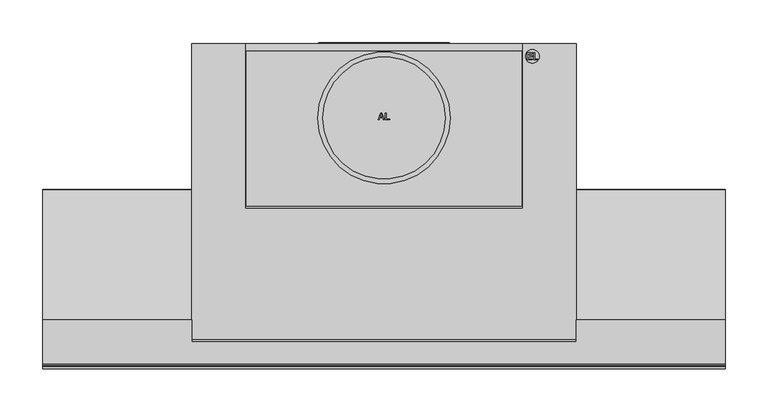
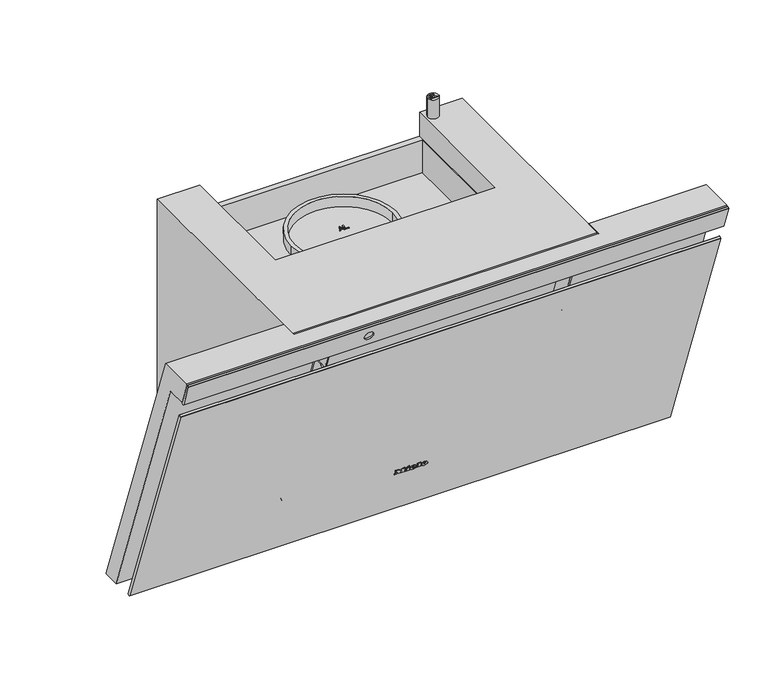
"""IFC4 building model written with IfcOpenShell, lengths in millimetres: proxy geometry, 12534040_D_DAH4870_GRGR : 28H4870G_D_12534040_DAH4870_GRGR."""

from ifc_helpers import new_model, si_unit, point, frame, frame_2d, origin, origin_with_axes, place, context, project, spatial, polyline, circle_curve, ellipse_curve, trimmed, segment, composite_curve, outline, extrude, faceted_brep, source, transform, mapped, element, save
from ifc_brep_helpers import plane_surface, cylinder_surface, revolved_surface, extruded_surface, advanced_brep


def specialty_equipment_f54dbeaa(model_context):
    return source(origin(), model_context, "Body", "SolidModel", [
        extrude(outline(polyline([(0.0, 0.0), (0.968, 0.0), (0.968, 5.352), (0.0, 5.352), (0.0, 6.696), (3.52, 6.696), (3.52, 5.352), (2.56, 5.352), (2.56, 1.9488753), (6.136, 6.696), (9.728, 1.8807777), (9.728, 5.352), (8.744, 5.352), (8.744, 6.696), (15.128, 6.696), (15.128, 5.352), (14.112, 5.352), (14.112, 0.0), (15.128, 0.0), (15.128, -1.304), (10.256, -1.304), (7.92, 1.696), (5.576, -1.304), (0.0, -1.304), (0.0, 0.0)])), frame((-24.271984, -261.1380975, 82.2921818), z_axis=(0.0, 0.9396926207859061, 0.34202014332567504), x_axis=(1.0, 0.0, 0.0)), (0.0, 0.0, 1.0), 1.0),
        extrude(outline(polyline([(0.0, 0.0), (0.96, 0.0), (0.96, 5.352), (0.0, 5.352), (0.0, 6.696), (6.488, 6.696), (6.488, 5.352), (5.504, 5.352), (5.504, -1.304), (0.0, -1.304), (0.0, 0.0)])), frame((8.192016, -261.1380975, 82.2921818), z_axis=(0.0, 0.9396926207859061, 0.34202014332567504), x_axis=(1.0, 0.0, 0.0)), (0.0, 0.0, 1.0), 1.0),
        extrude(outline(polyline([(0.0, 0.0), (1.4315306, 0.0), (1.4390414, -2.9920869), (0.0109086, -2.9993294), (0.0, 0.0)])), frame((-6.351984, -261.4226582, 83.074006), z_axis=(0.0, 0.9396926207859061, 0.342020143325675), x_axis=(0.42472021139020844, 0.30963927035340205, -0.8507269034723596)), (0.0, 0.0, 1.0), 1.0),
        extrude(outline(polyline([(0.4933907, 2.4141097), (1.7898156, 3.022309), (2.1941493, 2.1604399), (5.1636141, 3.5535222), (4.7592805, 4.4153913), (5.9760369, 4.9862153), (8.6568708, -0.728194), (7.4401145, -1.299018), (7.0459741, -0.4588767), (2.7800843, -2.4601583), (0.4933907, 2.4141097)])), frame((-6.351984, -261.4226582, 83.074006), z_axis=(0.0, 0.9396926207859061, 0.342020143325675), x_axis=(0.42472021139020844, 0.30963927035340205, -0.8507269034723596)), (0.0, 0.0, 1.0), 1.0),
        advanced_brep(
        [(2.392016, -259.4964008, 77.7816572), (2.392016, -259.7727531, 78.5409288), (7.744016, -259.7727531, 78.5409288), (-1.567984, -259.7727531, 78.5409288), (0.632016, -258.8479306, 76.0), (7.608016, -259.4964008, 77.7816572), (5.192016, -259.4964008, 77.7816572), (3.288016, -259.1899507, 76.9396926), (2.392016, -260.1229817, 79.5031741), (2.392016, -260.4212233, 80.3225861), (3.760016, -260.4212233, 80.3225861), (3.760016, -260.1229817, 79.5031741), (2.392016, -258.5567082, 78.1236774), (3.288016, -258.2502581, 77.2817128), (5.192016, -258.5567082, 78.1236774), (7.608016, -258.5567082, 78.1236774), (0.632016, -257.908238, 76.3420201), (-1.567984, -258.8330604, 78.882949), (7.744016, -258.8330604, 78.882949), (2.392016, -258.8330604, 78.882949), (2.392016, -259.1832891, 79.8451942), (3.760016, -259.1832891, 79.8451942), (3.760016, -259.4815306, 80.6646062), (2.392016, -259.4815306, 80.6646062)],
        [
            (0, 1),
            (1, 2),
            (2, 3, ellipse_curve(frame((3.088016, -259.7727531, 78.5409288), z_axis=(0.0, -0.9396926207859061, -0.34202014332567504), x_axis=(-1.0, 0.0, 0.0)), 4.656, 3.848)),
            (3, 4, circle_curve(frame((1.5280596, -259.8657825, 78.7965252), z_axis=(0.0, -0.9396926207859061, -0.34202014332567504), x_axis=(0.0, 0.34202014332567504, -0.9396926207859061)), 3.1079688)),
            (4, 5, circle_curve(frame((2.9948096, -260.5881291, 80.7811561), z_axis=(0.0, -0.9396926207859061, -0.34202014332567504), x_axis=(0.0, 0.34202014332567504, -0.9396926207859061)), 5.6098607)),
            (5, 6),
            (6, 7, circle_curve(frame((3.6790748, -259.7508638, 78.4807885), z_axis=(0.0, 0.9396926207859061, 0.34202014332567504), x_axis=(0.0, 0.34202014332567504, -0.9396926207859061)), 1.6859795)),
            (7, 0, circle_curve(frame((3.288016, -259.4964008, 77.7816572), z_axis=(0.0, 0.9396926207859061, 0.34202014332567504), x_axis=(0.0, 0.34202014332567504, -0.9396926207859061)), 0.896)),
            (8, 9),
            (9, 10, circle_curve(frame((3.076016, -260.4212233, 80.3225861), z_axis=(0.0, 0.9396926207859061, 0.34202014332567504), x_axis=(0.0, 0.34202014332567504, -0.9396926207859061)), 0.684)),
            (10, 11),
            (11, 8),
            (12, 13, circle_curve(frame((3.288016, -258.5567082, 78.1236774), z_axis=(0.0, -0.9396926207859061, -0.34202014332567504), x_axis=(0.0, 0.34202014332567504, -0.9396926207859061)), 0.896)),
            (13, 14, circle_curve(frame((3.6790748, -258.8111712, 78.8228087), z_axis=(0.0, -0.9396926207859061, -0.34202014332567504), x_axis=(0.0, 0.34202014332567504, -0.9396926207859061)), 1.6859795)),
            (14, 15),
            (15, 16, circle_curve(frame((2.9948096, -259.6484365, 81.1231762), z_axis=(0.0, 0.9396926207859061, 0.34202014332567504), x_axis=(0.0, 0.34202014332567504, -0.9396926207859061)), 5.6098607)),
            (16, 17, circle_curve(frame((1.5280596, -258.9260899, 79.1385454), z_axis=(0.0, 0.9396926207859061, 0.34202014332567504), x_axis=(0.0, 0.34202014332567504, -0.9396926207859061)), 3.1079688)),
            (17, 18, ellipse_curve(frame((3.088016, -258.8330604, 78.882949), z_axis=(0.0, 0.9396926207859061, 0.34202014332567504), x_axis=(-1.0, 0.0, 0.0)), 4.656, 3.848)),
            (18, 19),
            (19, 12),
            (20, 21),
            (21, 22),
            (22, 23, circle_curve(frame((3.076016, -259.4815306, 80.6646062), z_axis=(0.0, -0.9396926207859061, -0.34202014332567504), x_axis=(0.0, 0.34202014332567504, -0.9396926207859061)), 0.684)),
            (23, 20),
            (0, 12),
            (19, 1),
            (18, 2),
            (5, 15),
            (14, 6),
            (17, 3),
            (13, 7),
            (16, 4),
            (8, 20),
            (23, 9),
            (22, 10),
            (21, 11),
        ],
        [
            plane_surface(frame((2.392016, -259.7727531, 78.5409288), z_axis=(0.0, -0.9396926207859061, -0.34202014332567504), x_axis=(0.0, -0.34202014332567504, 0.9396926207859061))),
            plane_surface(frame((2.392016, -258.8330604, 78.882949), z_axis=(0.0, 0.9396926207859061, 0.34202014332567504), x_axis=(0.0, 0.34202014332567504, -0.9396926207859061))),
            plane_surface(frame((2.392016, -259.4964008, 77.7816572), z_axis=(1.0, 0.0, 0.0), x_axis=(0.0, 0.9396926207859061, 0.34202014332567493))),
            plane_surface(frame((2.392016, -259.7727531, 78.5409288), z_axis=(0.0, 0.34202014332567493, -0.9396926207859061), x_axis=(0.0, 0.9396926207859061, 0.34202014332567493))),
            plane_surface(frame((7.608016, -259.4964008, 77.7816572), z_axis=(0.0, -0.34202014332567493, 0.9396926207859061), x_axis=(0.0, 0.9396926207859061, 0.34202014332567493))),
            extruded_surface(trimmed(ellipse_curve(frame((3.088016, -257.8933678, 79.2249691), z_axis=(0.0, -0.9396926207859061, -0.34202014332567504), x_axis=(-1.0, 0.0, 0.0)), 4.656, 3.848), [point((7.744016, -257.8933678, 79.2249691))], [point((-1.567984, -257.8933678, 79.2249691))], True, "CARTESIAN"), (0.0, -0.9396926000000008, -0.34202009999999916), 0.9999999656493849),
            revolved_surface(polyline([(3.6790748, -258.2345321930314, 77.23850622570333), (3.6790748, -259.1742248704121, 76.89648606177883)]), (3.6790748, -258.8111712, 78.8228087), (0.0, 0.9396926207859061, 0.34202014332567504)),
            revolved_surface(polyline([(3.288016, -258.25025810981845, 77.28171282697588), (3.288016, -259.1899507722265, 76.93969266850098)]), (3.288016, -258.5567082, 78.1236774), (0.0, 0.9396926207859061, 0.34202014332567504)),
            cylinder_surface(frame((1.5280596, -258.9260899, 79.1385454), z_axis=(0.0, -0.9396926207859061, -0.34202014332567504), x_axis=(0.0, 0.34202014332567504, -0.9396926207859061)), 3.1079688),
            cylinder_surface(frame((2.9948096, -259.6484365, 81.1231762), z_axis=(0.0, -0.9396926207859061, -0.34202014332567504), x_axis=(0.0, 0.34202014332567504, -0.9396926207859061)), 5.6098607),
            plane_surface(frame((2.392016, -260.1229817, 79.5031741), z_axis=(1.0, 0.0, 0.0), x_axis=(0.0, 0.9396926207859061, 0.34202014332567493))),
            revolved_surface(polyline([(3.076016, -259.2475888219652, 80.02185644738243), (3.076016, -260.1872814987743, 79.67983628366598)]), (3.076016, -259.4815306, 80.6646062), (0.0, 0.9396926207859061, 0.34202014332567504)),
            plane_surface(frame((3.760016, -260.4212233, 80.3225861), z_axis=(-1.0, 0.0, 0.0), x_axis=(0.0, 0.9396926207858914, 0.3420201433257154))),
            plane_surface(frame((3.760016, -260.1229817, 79.5031741), z_axis=(0.0, -0.34202014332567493, 0.9396926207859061), x_axis=(0.0, 0.9396926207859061, 0.34202014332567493))),
        ],
        [
            (0, [[1, 2, 3, 4, 5, 6, 7, 8], [9, 10, 11, 12]]),
            (1, [[13, 14, 15, 16, 17, 18, 19, 20], [21, 22, 23, 24]]),
            (2, [[-1, 25, -20, 26]]),
            (3, [[-2, -26, -19, 27]]),
            (4, [[-6, 28, -15, 29]]),
            (5, [[-3, -27, -18, 30]]),
            (6, [[-7, -29, -14, 31]]),
            (7, [[-8, -31, -13, -25]]),
            (8, [[-4, -30, -17, 32]]),
            (9, [[-5, -32, -16, -28]]),
            (10, [[-9, 33, -24, 34]]),
            (11, [[-10, -34, -23, 35]]),
            (12, [[-11, -35, -22, 36]]),
            (13, [[-12, -36, -21, -33]]),
        ],
    ),
        advanced_brep(
        [(19.088016, -259.4964008, 77.7816572), (19.088016, -259.7727531, 78.5409288), (24.440016, -259.7727531, 78.5409288), (15.128016, -259.7727531, 78.5409288), (17.328016, -258.8479306, 76.0), (24.304016, -259.4964008, 77.7816572), (21.888016, -259.4964008, 77.7816572), (19.984016, -259.1899507, 76.9396926), (19.088016, -260.1229817, 79.5031741), (19.088016, -260.4212233, 80.3225861), (20.456016, -260.4212233, 80.3225861), (20.456016, -260.1229817, 79.5031741), (19.088016, -258.5567082, 78.1236774), (19.984016, -258.2502581, 77.2817128), (21.888016, -258.5567082, 78.1236774), (24.304016, -258.5567082, 78.1236774), (17.328016, -257.908238, 76.3420201), (15.128016, -258.8330604, 78.882949), (24.440016, -258.8330604, 78.882949), (19.088016, -258.8330604, 78.882949), (19.088016, -259.1832891, 79.8451942), (20.456016, -259.1832891, 79.8451942), (20.456016, -259.4815306, 80.6646062), (19.088016, -259.4815306, 80.6646062)],
        [
            (0, 1),
            (1, 2),
            (2, 3, ellipse_curve(frame((19.784016, -259.7727531, 78.5409288), z_axis=(0.0, -0.9396926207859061, -0.34202014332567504), x_axis=(-1.0, 0.0, 0.0)), 4.656, 3.848)),
            (3, 4, circle_curve(frame((18.2240596, -259.8657825, 78.7965252), z_axis=(0.0, -0.9396926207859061, -0.34202014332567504), x_axis=(0.0, 0.34202014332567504, -0.9396926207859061)), 3.1079688)),
            (4, 5, circle_curve(frame((19.6908096, -260.5881291, 80.7811561), z_axis=(0.0, -0.9396926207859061, -0.34202014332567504), x_axis=(0.0, 0.34202014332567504, -0.9396926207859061)), 5.6098607)),
            (5, 6),
            (6, 7, circle_curve(frame((20.3750748, -259.7508638, 78.4807885), z_axis=(0.0, 0.9396926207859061, 0.34202014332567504), x_axis=(0.0, 0.34202014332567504, -0.9396926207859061)), 1.6859795)),
            (7, 0, circle_curve(frame((19.984016, -259.4964008, 77.7816572), z_axis=(0.0, 0.9396926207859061, 0.34202014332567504), x_axis=(0.0, 0.34202014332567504, -0.9396926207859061)), 0.896)),
            (8, 9),
            (9, 10, circle_curve(frame((19.772016, -260.4212233, 80.3225861), z_axis=(0.0, 0.9396926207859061, 0.34202014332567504), x_axis=(0.0, 0.34202014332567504, -0.9396926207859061)), 0.684)),
            (10, 11),
            (11, 8),
            (12, 13, circle_curve(frame((19.984016, -258.5567082, 78.1236774), z_axis=(0.0, -0.9396926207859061, -0.34202014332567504), x_axis=(0.0, 0.34202014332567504, -0.9396926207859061)), 0.896)),
            (13, 14, circle_curve(frame((20.3750748, -258.8111712, 78.8228087), z_axis=(0.0, -0.9396926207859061, -0.34202014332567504), x_axis=(0.0, 0.34202014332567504, -0.9396926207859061)), 1.6859795)),
            (14, 15),
            (15, 16, circle_curve(frame((19.6908096, -259.6484365, 81.1231762), z_axis=(0.0, 0.9396926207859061, 0.34202014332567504), x_axis=(0.0, 0.34202014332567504, -0.9396926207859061)), 5.6098607)),
            (16, 17, circle_curve(frame((18.2240596, -258.9260899, 79.1385454), z_axis=(0.0, 0.9396926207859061, 0.34202014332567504), x_axis=(0.0, 0.34202014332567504, -0.9396926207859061)), 3.1079688)),
            (17, 18, ellipse_curve(frame((19.784016, -258.8330604, 78.882949), z_axis=(0.0, 0.9396926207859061, 0.34202014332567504), x_axis=(-1.0, 0.0, 0.0)), 4.656, 3.848)),
            (18, 19),
            (19, 12),
            (20, 21),
            (21, 22),
            (22, 23, circle_curve(frame((19.772016, -259.4815306, 80.6646062), z_axis=(0.0, -0.9396926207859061, -0.34202014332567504), x_axis=(0.0, 0.34202014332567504, -0.9396926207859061)), 0.684)),
            (23, 20),
            (0, 12),
            (19, 1),
            (18, 2),
            (5, 15),
            (14, 6),
            (17, 3),
            (13, 7),
            (16, 4),
            (8, 20),
            (23, 9),
            (22, 10),
            (21, 11),
        ],
        [
            plane_surface(frame((19.088016, -259.7727531, 78.5409288), z_axis=(0.0, -0.9396926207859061, -0.34202014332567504), x_axis=(0.0, -0.34202014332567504, 0.9396926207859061))),
            plane_surface(frame((19.088016, -258.8330604, 78.882949), z_axis=(0.0, 0.9396926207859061, 0.34202014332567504), x_axis=(0.0, 0.34202014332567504, -0.9396926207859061))),
            plane_surface(frame((19.088016, -259.4964008, 77.7816572), z_axis=(1.0, 0.0, 0.0), x_axis=(0.0, 0.9396926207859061, 0.34202014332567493))),
            plane_surface(frame((19.088016, -259.7727531, 78.5409288), z_axis=(0.0, 0.34202014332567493, -0.9396926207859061), x_axis=(0.0, 0.9396926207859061, 0.34202014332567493))),
            plane_surface(frame((24.304016, -259.4964008, 77.7816572), z_axis=(0.0, -0.34202014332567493, 0.9396926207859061), x_axis=(0.0, 0.9396926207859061, 0.34202014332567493))),
            extruded_surface(trimmed(ellipse_curve(frame((19.784016, -257.8933678, 79.2249691), z_axis=(0.0, -0.9396926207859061, -0.34202014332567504), x_axis=(-1.0, 0.0, 0.0)), 4.656, 3.848), [point((24.440016, -257.8933678, 79.2249691))], [point((15.128016, -257.8933678, 79.2249691))], True, "CARTESIAN"), (0.0, -0.9396926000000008, -0.34202009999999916), 0.9999999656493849),
            revolved_surface(polyline([(20.3750748, -258.2345321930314, 77.23850622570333), (20.3750748, -259.1742248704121, 76.89648606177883)]), (20.3750748, -258.8111712, 78.8228087), (0.0, 0.9396926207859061, 0.34202014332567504)),
            revolved_surface(polyline([(19.984016, -258.25025810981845, 77.28171282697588), (19.984016, -259.1899507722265, 76.93969266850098)]), (19.984016, -258.5567082, 78.1236774), (0.0, 0.9396926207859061, 0.34202014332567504)),
            cylinder_surface(frame((18.2240596, -258.9260899, 79.1385454), z_axis=(0.0, -0.9396926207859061, -0.34202014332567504), x_axis=(0.0, 0.34202014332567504, -0.9396926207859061)), 3.1079688),
            cylinder_surface(frame((19.6908096, -259.6484365, 81.1231762), z_axis=(0.0, -0.9396926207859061, -0.34202014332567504), x_axis=(0.0, 0.34202014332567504, -0.9396926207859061)), 5.6098607),
            plane_surface(frame((19.088016, -260.1229817, 79.5031741), z_axis=(1.0, 0.0, 0.0), x_axis=(0.0, 0.9396926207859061, 0.34202014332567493))),
            revolved_surface(polyline([(19.772016, -259.2475888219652, 80.02185644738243), (19.772016, -260.1872814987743, 79.67983628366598)]), (19.772016, -259.4815306, 80.6646062), (0.0, 0.9396926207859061, 0.34202014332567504)),
            plane_surface(frame((20.456016, -260.4212233, 80.3225861), z_axis=(-1.0, 0.0, 0.0), x_axis=(0.0, 0.9396926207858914, 0.3420201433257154))),
            plane_surface(frame((20.456016, -260.1229817, 79.5031741), z_axis=(0.0, -0.34202014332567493, 0.9396926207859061), x_axis=(0.0, 0.9396926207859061, 0.34202014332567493))),
        ],
        [
            (0, [[1, 2, 3, 4, 5, 6, 7, 8], [9, 10, 11, 12]]),
            (1, [[13, 14, 15, 16, 17, 18, 19, 20], [21, 22, 23, 24]]),
            (2, [[-1, 25, -20, 26]]),
            (3, [[-2, -26, -19, 27]]),
            (4, [[-6, 28, -15, 29]]),
            (5, [[-3, -27, -18, 30]]),
            (6, [[-7, -29, -14, 31]]),
            (7, [[-8, -31, -13, -25]]),
            (8, [[-4, -30, -17, 32]]),
            (9, [[-5, -32, -16, -28]]),
            (10, [[-9, 33, -24, 34]]),
            (11, [[-10, -34, -23, 35]]),
            (12, [[-11, -35, -22, 36]]),
            (13, [[-12, -36, -21, -33]]),
        ],
    ),
        extrude(outline(polyline([(-360.7463335, 358.8873647), (-360.415052, 359.5978002), (-357.6978047, 360.5867974), (-356.9874893, 360.2555718), (-226.6813347, 2.2423544), (-227.0128466, 1.5314248), (-229.7316219, 0.5418715), (-230.4393591, 0.8718948), (-360.7463335, 358.8873647)])), frame((-399.0, 0.0, 0.0), z_axis=(1.0, 0.0, 0.0), x_axis=(0.0, 1.0, 0.0)), (0.0, 0.0, 1.0), 798.0),
        advanced_brep(
        [(-198.5, -225.9485265, 82.132138), (-198.5, -235.8911369, 109.4492355), (-198.5, -230.9198317, 95.7906867), (-198.5, -231.2422284, 80.5173231), (-198.5, -240.9843308, 107.2835295), (-198.5, -250.514978, 76.8365225), (-198.5, -258.1140866, 97.7149017), (-198.5, -251.4164577, 77.3487429), (-198.5, -258.4754112, 96.7430581), (-198.5, -254.9459345, 87.0459005)],
        [
            (0, 1, circle_curve(frame((-198.5, -230.9198317, 95.7906867), z_axis=(0.0, 0.9396926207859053, 0.3420201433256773), x_axis=(0.0, -0.3420201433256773, 0.9396926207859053)), 14.535124)),
            (1, 2),
            (2, 0),
            (1, 0, circle_curve(frame((-198.5, -230.9198317, 95.7906867), z_axis=(0.0, 0.9396926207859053, 0.3420201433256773), x_axis=(0.0, -0.3420201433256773, 0.9396926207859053)), 14.535124)),
            (3, 4, circle_curve(frame((-198.5, -236.1132796, 93.9004263), z_axis=(0.0, 0.9396926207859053, 0.3420201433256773), x_axis=(0.0, -0.3420201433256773, 0.9396926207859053)), 14.2420009)),
            (4, 1),
            (0, 3),
            (4, 3, circle_curve(frame((-198.5, -236.1132796, 93.9004263), z_axis=(0.0, 0.9396926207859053, 0.3420201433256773), x_axis=(0.0, -0.3420201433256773, 0.9396926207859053)), 14.2420009)),
            (5, 6, circle_curve(frame((-198.5, -254.3145323, 87.2757121), z_axis=(0.0, 0.9396926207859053, 0.3420201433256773), x_axis=(0.0, -0.3420201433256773, 0.9396926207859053)), 11.1091535)),
            (6, 4),
            (3, 5),
            (6, 5, circle_curve(frame((-198.5, -254.3145323, 87.2757121), z_axis=(0.0, 0.9396926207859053, 0.3420201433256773), x_axis=(0.0, -0.3420201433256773, 0.9396926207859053)), 11.1091535)),
            (7, 8, circle_curve(frame((-198.5, -254.9459345, 87.0459005), z_axis=(0.0, 0.9396926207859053, 0.3420201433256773), x_axis=(0.0, -0.3420201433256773, 0.9396926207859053)), 10.3194996)),
            (8, 6),
            (5, 7),
            (8, 7, circle_curve(frame((-198.5, -254.9459345, 87.0459005), z_axis=(0.0, 0.9396926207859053, 0.3420201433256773), x_axis=(0.0, -0.3420201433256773, 0.9396926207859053)), 10.3194996)),
            (9, 8),
            (7, 9),
        ],
        [
            plane_surface(frame((-198.5, -230.9198317, 95.7906867), z_axis=(0.0, 0.9396926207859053, 0.3420201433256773), x_axis=(0.0, -0.3420201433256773, 0.9396926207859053))),
            revolved_surface(polyline([(-198.5, -235.8312261, 109.4708926), (-198.5, -240.9843308, 107.2835295)]), (-198.5, -255.2773841, 86.9252627), (0.0, -0.9396926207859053, -0.3420201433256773)),
            revolved_surface(polyline([(-198.5, -240.9843308, 107.2835295), (-198.5, -258.1140866, 97.7149017)]), (-198.5, -255.2773841, 86.9252627), (0.0, -0.9396926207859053, -0.3420201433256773)),
            revolved_surface(polyline([(-198.5, -258.1140866, 97.7149017), (-198.5, -258.4754112, 96.7430581)]), (-198.5, -255.2773841, 86.9252627), (0.0, -0.9396926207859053, -0.3420201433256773)),
            plane_surface(frame((-198.5, -254.9459345, 87.0459005), z_axis=(0.0, -0.9396926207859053, -0.3420201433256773), x_axis=(0.0, -0.3420201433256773, 0.9396926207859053))),
        ],
        [
            (0, [[1, 2, 3]]),
            (0, [[4, -3, -2]]),
            (1, [[5, 6, -1, 7]]),
            (1, [[8, -7, -4, -6]]),
            (2, [[9, 10, -5, 11]]),
            (2, [[12, -11, -8, -10]]),
            (3, [[13, 14, -9, 15]]),
            (3, [[16, -15, -12, -14]]),
            (4, [[17, -13, 18]]),
            (4, [[-18, -16, -17]]),
        ],
    ),
        advanced_brep(
        [(-198.5, -249.4001153, 68.4387353), (-198.5, -262.8067778, 105.2732379), (-198.5, -257.0531232, 93.8737841), (-198.5, -252.3199878, 80.8696014), (-198.5, -250.699917, 68.232867), (-198.5, -263.9348133, 104.5954458), (-198.5, -257.3173652, 86.4141564), (-198.5, -254.6865555, 87.3716928)],
        [
            (0, 1, circle_curve(frame((-198.5, -256.1034466, 86.8559866), z_axis=(0.0, 0.9396926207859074, 0.34202014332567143), x_axis=(0.0, -0.34202014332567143, 0.9396926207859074)), 19.5992294)),
            (1, 2),
            (2, 3, circle_curve(frame((-198.5, -254.6865555, 87.3716928), z_axis=(0.0, -0.9396926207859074, -0.34202014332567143), x_axis=(0.0, -0.34202014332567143, 0.9396926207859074)), 6.9193811)),
            (3, 0),
            (1, 0, circle_curve(frame((-198.5, -256.1034466, 86.8559866), z_axis=(0.0, 0.9396926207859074, 0.34202014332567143), x_axis=(0.0, -0.34202014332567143, 0.9396926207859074)), 19.5992294)),
            (3, 2, circle_curve(frame((-198.5, -254.6865555, 87.3716928), z_axis=(0.0, -0.9396926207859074, -0.34202014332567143), x_axis=(0.0, -0.34202014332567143, 0.9396926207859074)), 6.9193811)),
            (4, 5, circle_curve(frame((-198.5, -257.3173652, 86.4141564), z_axis=(0.0, 0.9396926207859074, 0.34202014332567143), x_axis=(0.0, -0.34202014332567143, 0.9396926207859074)), 19.3481241)),
            (5, 1),
            (0, 4),
            (5, 4, circle_curve(frame((-198.5, -257.3173652, 86.4141564), z_axis=(0.0, 0.9396926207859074, 0.34202014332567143), x_axis=(0.0, -0.34202014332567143, 0.9396926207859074)), 19.3481241)),
            (6, 5),
            (4, 6),
            (2, 7),
            (7, 3),
        ],
        [
            revolved_surface(polyline([(-198.5, -257.0531232, 93.8737841), (-198.5, -262.8067778, 105.2732379)]), (-198.5, -254.6865555, 87.3716928), (0.0, -0.9396926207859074, -0.34202014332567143)),
            revolved_surface(polyline([(-198.5, -262.8067778, 105.2732379), (-198.5, -263.9348133, 104.5954458)]), (-198.5, -254.6865555, 87.3716928), (0.0, -0.9396926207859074, -0.34202014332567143)),
            plane_surface(frame((-198.5, -257.3173652, 86.4141564), z_axis=(0.0, -0.9396926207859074, -0.34202014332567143), x_axis=(0.0, -0.34202014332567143, 0.9396926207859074))),
            plane_surface(frame((-198.5, -254.6865555, 87.3716928), z_axis=(0.0, 0.9396926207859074, 0.34202014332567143), x_axis=(0.0, -0.34202014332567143, 0.9396926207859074))),
        ],
        [
            (0, [[1, 2, 3, 4]]),
            (0, [[5, -4, 6, -2]]),
            (1, [[7, 8, -1, 9]]),
            (1, [[10, -9, -5, -8]]),
            (2, [[11, -7, 12]]),
            (2, [[-12, -10, -11]]),
            (3, [[-3, 13, 14]]),
            (3, [[-6, -14, -13]]),
        ],
    ),
        advanced_brep(
        [(176.5, -181.0, 17.47316), (-176.5, -181.0, 17.47316), (-176.5, -176.8867205, 17.47316), (176.5, -176.8867205, 17.47316), (-176.5, -181.0, -1.0), (-176.5, -172.0796342, -1.0), (-176.5, -170.778799, 0.6917834), (176.5, -181.0, -1.0), (176.5, -170.778799, 0.6917834), (176.5, -172.0796342, -1.0), (399.0, -323.3945088, 420.0), (399.0, -375.0979614, 420.0), (399.0, -376.7893982, 417.5843506), (399.0, -364.9985039, 385.1891347), (399.0, -363.3053284, 384.0), (399.0, -340.650621, 384.0), (399.0, -335.6111939, 385.7236467), (399.0, -196.7717369, -1.0), (399.0, -172.0796342, -1.0), (399.0, -170.778799, 0.6917834), (-399.0, -323.3945088, 420.0), (-399.0, -170.778799, 0.6917834), (-399.0, -172.0796342, -1.0), (-399.0, -196.7717369, -1.0), (-399.0, -335.6111939, 385.7236467), (-399.0, -340.650621, 384.0), (-399.0, -363.3053284, 384.0), (-399.0, -364.9985039, 385.1891347), (-399.0, -376.7893982, 417.5843506), (-399.0, -375.0979614, 420.0), (225.0, -323.3945088, 420.0), (225.0, -349.0492238, 420.0), (-225.0, -349.0492238, 420.0), (-225.0, -323.3945088, 420.0), (-225.0, -335.6111939, 385.7236467), (-225.0, -336.4744757, 385.4283765), (225.0, -336.4744757, 385.4283765), (225.0, -335.6111939, 385.7236467), (225.0, -335.5051875, 385.4283765), (-225.0, -335.5051875, 385.4283765), (-225.0, -310.8114669, 385.4283765), (225.0, -310.8114669, 385.4283765)],
        [
            (0, 1),
            (1, 2),
            (2, 3),
            (3, 0),
            (1, 4),
            (4, 5),
            (5, 6, circle_curve(frame((-176.5, -172.0796342, 0.3460066), z_axis=(1.0, 0.0, 0.0), x_axis=(0.0, 1.0, 0.0)), 1.3460066)),
            (6, 2),
            (0, 7),
            (7, 4),
            (3, 8),
            (8, 9, circle_curve(frame((176.5, -172.0796342, 0.3460066), z_axis=(-1.0, 0.0, 0.0), x_axis=(0.0, 1.0, 0.0)), 1.3460066)),
            (9, 7),
            (10, 11),
            (11, 12),
            (12, 13),
            (13, 14),
            (14, 15),
            (15, 16),
            (16, 17),
            (17, 18),
            (18, 19, circle_curve(frame((399.0, -172.0796342, 0.3460066), z_axis=(1.0, 0.0, 0.0), x_axis=(0.0, 1.0, 0.0)), 1.3460066)),
            (19, 10),
            (20, 21),
            (21, 22, circle_curve(frame((-399.0, -172.0796342, 0.3460066), z_axis=(-1.0, 0.0, 0.0), x_axis=(0.0, 1.0, 0.0)), 1.3460066)),
            (22, 23),
            (23, 24),
            (24, 25),
            (25, 26),
            (26, 27),
            (27, 28),
            (28, 29),
            (29, 20),
            (10, 30),
            (30, 31),
            (31, 32),
            (32, 33),
            (33, 20),
            (29, 11),
            (28, 12),
            (27, 13),
            (26, 14),
            (25, 15),
            (24, 34),
            (34, 35),
            (35, 36),
            (36, 37),
            (37, 16),
            (37, 38),
            (38, 39),
            (39, 34),
            (23, 17),
            (22, 5),
            (9, 18),
            (8, 19),
            (21, 6),
            (33, 40),
            (40, 41),
            (41, 30),
            (36, 31),
            (41, 38),
            (32, 35),
            (39, 40),
        ],
        [
            plane_surface(frame((-176.5, -48.0, 17.47316), z_axis=(0.0, 0.0, -1.0), x_axis=(-1.0, 0.0, 0.0))),
            plane_surface(frame((-176.5, -48.0, 17.47316), z_axis=(1.0, 0.0, 0.0), x_axis=(0.0, 0.0, -1.0))),
            plane_surface(frame((-176.5, -181.0, 17.47316), z_axis=(0.0, 1.0, 0.0), x_axis=(0.0, 0.0, -1.0))),
            plane_surface(frame((176.5, -181.0, 17.47316), z_axis=(-1.0, 0.0, 0.0), x_axis=(0.0, 0.0, -1.0))),
            plane_surface(frame((399.0, -323.3945088, 420.0), z_axis=(1.0, 0.0, 0.0), x_axis=(0.0, -1.0, 0.0))),
            plane_surface(frame((-399.0, -323.3945088, 420.0), z_axis=(-1.0, 0.0, 0.0), x_axis=(0.0, 1.0, 0.0))),
            plane_surface(frame((399.0, -323.3945088, 420.0), z_axis=(0.0, 0.0, 1.0), x_axis=(-1.0, 0.0, 0.0))),
            plane_surface(frame((399.0, -375.0979614, 420.0), z_axis=(0.0, -0.8191550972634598, 0.5735720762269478), x_axis=(-1.0, 0.0, 0.0))),
            plane_surface(frame((399.0, -376.7893982, 417.5843506), z_axis=(0.0, -0.9396926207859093, -0.3420201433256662), x_axis=(-1.0, 0.0, 0.0))),
            plane_surface(frame((399.0, -364.9985039, 385.1891347), z_axis=(0.0, -0.5747305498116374, -0.818342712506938), x_axis=(-1.0, 0.0, 0.0))),
            plane_surface(frame((399.0, -363.3053284, 384.0), z_axis=(0.0, 0.0, -1.0), x_axis=(-1.0, 0.0, 0.0))),
            plane_surface(frame((399.0, -340.650621, 384.0), z_axis=(0.0, 0.3236258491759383, -0.9461851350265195), x_axis=(-1.0, 0.0, 0.0))),
            plane_surface(frame((399.0, -335.6111939, 385.7236467), z_axis=(0.0, -0.9411826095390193, -0.3378983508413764), x_axis=(-1.0, 0.0, 0.0))),
            plane_surface(frame((399.0, -196.7717369, -1.0), z_axis=(0.0, 0.0, -1.0), x_axis=(-1.0, 0.0, 0.0))),
            cylinder_surface(frame((-399.0, -172.0796342, 0.3460066), z_axis=(1.0, 0.0, 0.0), x_axis=(0.0, 1.0, 0.0)), 1.3460066),
            plane_surface(frame((399.0, -170.778799, 0.6917834), z_axis=(0.0, 0.9396926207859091, 0.3420201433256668), x_axis=(-1.0, 0.0, 0.0))),
            plane_surface(frame((225.0, -336.4744757, 385.4283765), z_axis=(-1.0000000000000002, 0.0, 0.0), x_axis=(0.0, 0.34182105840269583, -0.9397650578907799))),
            plane_surface(frame((-225.0, -336.4744757, 385.4283765), z_axis=(1.0000000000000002, 0.0, 0.0), x_axis=(0.0, -0.34182105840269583, 0.9397650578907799))),
            plane_surface(frame((225.0, -349.0492238, 420.0), z_axis=(0.0, 0.9397650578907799, 0.34182105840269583), x_axis=(-1.0, 0.0, 0.0))),
            plane_surface(frame((225.0, -336.4744757, 385.4283765), z_axis=(0.0, 0.0, 1.0), x_axis=(-1.0, 0.0, 0.0))),
        ],
        [
            (0, [[1, 2, 3, 4]]),
            (1, [[-2, 5, 6, 7, 8]]),
            (2, [[-1, 9, 10, -5]]),
            (3, [[-4, 11, 12, 13, -9]]),
            (4, [[14, 15, 16, 17, 18, 19, 20, 21, 22, 23]]),
            (5, [[24, 25, 26, 27, 28, 29, 30, 31, 32, 33]]),
            (6, [[-14, 34, 35, 36, 37, 38, -33, 39]]),
            (7, [[-15, -39, -32, 40]]),
            (8, [[-16, -40, -31, 41]]),
            (9, [[-17, -41, -30, 42]]),
            (10, [[-18, -42, -29, 43]]),
            (11, [[-19, -43, -28, 44, 45, 46, 47, 48]]),
            (12, [[-20, -48, 49, 50, 51, -44, -27, 52]]),
            (13, [[-21, -52, -26, 53, -6, -10, -13, 54]]),
            (14, [[-22, -54, -12, 55]]),
            (14, [[-25, 56, -7, -53]]),
            (15, [[-23, -55, -11, -3, -8, -56, -24, -38, 57, 58, 59, -34]]),
            (16, [[60, -35, -59, 61, -49, -47]]),
            (17, [[62, -45, -51, 63, -57, -37]]),
            (18, [[-60, -46, -62, -36]]),
            (19, [[-61, -58, -63, -50]]),
        ],
    ),
        extrude(outline(polyline([(-306.7195362, 239.6880975), (-295.2497253, 239.1867523), (-287.4936218, 230.7224274), (-265.2623125, 169.642407), (-265.763092, 158.1728363), (-274.227725, 150.4175862), (-279.8658073, 148.3654921), (-312.3576165, 237.6360041), (-306.7195362, 239.6880975)])), frame((181.7499655, 0.0, 0.0), z_axis=(1.0, 0.0, 0.0), x_axis=(0.0, 1.0, 0.0)), (0.0, 0.0, 1.0), 4.7307792),
        extrude(outline(polyline([(-345.8296012, 357.410578), (-334.3598001, 356.9092332), (-332.8038582, 355.2112159), (-317.287762, 312.581092), (-317.287762, 307.3632968), (-320.9842642, 303.6667946), (-334.5886296, 298.7152105), (-354.767901, 354.157303), (-345.8296012, 357.410578)])), frame((-183.7499655, 0.0, 0.0), z_axis=(1.0, 0.0, 0.0), x_axis=(0.0, 1.0, 0.0)), (0.0, 0.0, 1.0), 2.0),
        advanced_brep(
        [(198.5, -230.9018417, 95.8650227), (198.5, -235.8509293, 109.4625291), (198.5, -225.9091808, 82.1477994), (198.5, -240.9843308, 107.2835295), (198.5, -231.2422284, 80.5173231), (198.5, -258.1140866, 97.7149017), (198.5, -250.514978, 76.8365225), (198.5, -258.4754112, 96.7430581), (198.5, -251.4164577, 77.3487429), (198.5, -254.9459345, 87.0459005)],
        [
            (0, 1),
            (1, 2, circle_curve(frame((198.5, -230.8800551, 95.8051643), z_axis=(0.0, 0.9396926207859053, 0.3420201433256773), x_axis=(0.0, -0.3420201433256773, 0.9396926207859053)), 14.5338641)),
            (2, 0),
            (2, 1, circle_curve(frame((198.5, -230.8800551, 95.8051643), z_axis=(0.0, 0.9396926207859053, 0.3420201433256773), x_axis=(0.0, -0.3420201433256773, 0.9396926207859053)), 14.5338641)),
            (1, 3),
            (3, 4, circle_curve(frame((198.5, -236.1132796, 93.9004263), z_axis=(0.0, 0.9396926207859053, 0.3420201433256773), x_axis=(0.0, -0.3420201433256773, 0.9396926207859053)), 14.2420009)),
            (4, 2),
            (4, 3, circle_curve(frame((198.5, -236.1132796, 93.9004263), z_axis=(0.0, 0.9396926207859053, 0.3420201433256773), x_axis=(0.0, -0.3420201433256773, 0.9396926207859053)), 14.2420009)),
            (3, 5),
            (5, 6, circle_curve(frame((198.5, -254.3145323, 87.2757121), z_axis=(0.0, 0.9396926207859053, 0.3420201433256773), x_axis=(0.0, -0.3420201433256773, 0.9396926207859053)), 11.1091535)),
            (6, 4),
            (6, 5, circle_curve(frame((198.5, -254.3145323, 87.2757121), z_axis=(0.0, 0.9396926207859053, 0.3420201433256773), x_axis=(0.0, -0.3420201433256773, 0.9396926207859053)), 11.1091535)),
            (5, 7),
            (7, 8, circle_curve(frame((198.5, -254.9459345, 87.0459005), z_axis=(0.0, 0.9396926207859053, 0.3420201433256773), x_axis=(0.0, -0.3420201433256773, 0.9396926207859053)), 10.3194996)),
            (8, 6),
            (8, 7, circle_curve(frame((198.5, -254.9459345, 87.0459005), z_axis=(0.0, 0.9396926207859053, 0.3420201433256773), x_axis=(0.0, -0.3420201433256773, 0.9396926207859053)), 10.3194996)),
            (7, 9),
            (9, 8),
        ],
        [
            plane_surface(frame((198.5, -230.8800551, 95.8051643), z_axis=(0.0, 0.9396926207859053, 0.3420201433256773), x_axis=(0.0, -0.3420201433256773, 0.9396926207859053))),
            revolved_surface(polyline([(198.5, -240.9843308, 107.2835295), (198.5, -235.8509293, 109.4625291)]), (198.5, -255.2773841, 86.9252627), (0.0, 0.9396926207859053, 0.3420201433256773)),
            revolved_surface(polyline([(198.5, -258.1140866, 97.7149017), (198.5, -240.9843308, 107.2835295)]), (198.5, -255.2773841, 86.9252627), (0.0, 0.9396926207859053, 0.3420201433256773)),
            revolved_surface(polyline([(198.5, -258.4754112, 96.7430581), (198.5, -258.1140866, 97.7149017)]), (198.5, -255.2773841, 86.9252627), (0.0, 0.9396926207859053, 0.3420201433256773)),
            plane_surface(frame((198.5, -254.9459345, 87.0459005), z_axis=(0.0, -0.9396926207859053, -0.3420201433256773), x_axis=(0.0, -0.3420201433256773, 0.9396926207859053))),
        ],
        [
            (0, [[1, 2, 3]]),
            (0, [[-3, 4, -1]]),
            (1, [[-2, 5, 6, 7]]),
            (1, [[-4, -7, 8, -5]]),
            (2, [[-6, 9, 10, 11]]),
            (2, [[-8, -11, 12, -9]]),
            (3, [[-10, 13, 14, 15]]),
            (3, [[-12, -15, 16, -13]]),
            (4, [[-14, 17, 18]]),
            (4, [[-16, -18, -17]]),
        ],
    ),
        advanced_brep(
        [(198.5, -252.3199878, 80.8696014), (198.5, -257.0531232, 93.8737841), (198.5, -262.8067778, 105.2732379), (198.5, -249.4001153, 68.4387353), (198.5, -263.9348133, 104.5954458), (198.5, -250.699917, 68.232867), (198.5, -257.3173652, 86.4141564), (198.5, -254.6865555, 87.3716928)],
        [
            (0, 1, circle_curve(frame((198.5, -254.6865555, 87.3716928), z_axis=(0.0, -0.9396926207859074, -0.34202014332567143), x_axis=(0.0, -0.34202014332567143, 0.9396926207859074)), 6.9193811)),
            (1, 2),
            (2, 3, circle_curve(frame((198.5, -256.1034466, 86.8559866), z_axis=(0.0, 0.9396926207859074, 0.34202014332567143), x_axis=(0.0, -0.34202014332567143, 0.9396926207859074)), 19.5992294)),
            (3, 0),
            (1, 0, circle_curve(frame((198.5, -254.6865555, 87.3716928), z_axis=(0.0, -0.9396926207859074, -0.34202014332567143), x_axis=(0.0, -0.34202014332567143, 0.9396926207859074)), 6.9193811)),
            (3, 2, circle_curve(frame((198.5, -256.1034466, 86.8559866), z_axis=(0.0, 0.9396926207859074, 0.34202014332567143), x_axis=(0.0, -0.34202014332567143, 0.9396926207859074)), 19.5992294)),
            (2, 4),
            (4, 5, circle_curve(frame((198.5, -257.3173652, 86.4141564), z_axis=(0.0, 0.9396926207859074, 0.34202014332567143), x_axis=(0.0, -0.34202014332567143, 0.9396926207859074)), 19.3481241)),
            (5, 3),
            (5, 4, circle_curve(frame((198.5, -257.3173652, 86.4141564), z_axis=(0.0, 0.9396926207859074, 0.34202014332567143), x_axis=(0.0, -0.34202014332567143, 0.9396926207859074)), 19.3481241)),
            (4, 6),
            (6, 5),
            (7, 1),
            (0, 7),
        ],
        [
            revolved_surface(polyline([(198.5, -262.8067778, 105.2732379), (198.5, -257.0531232, 93.8737841)]), (198.5, -254.6865555, 87.3716928), (0.0, 0.9396926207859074, 0.34202014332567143)),
            revolved_surface(polyline([(198.5, -263.9348133, 104.5954458), (198.5, -262.8067778, 105.2732379)]), (198.5, -254.6865555, 87.3716928), (0.0, 0.9396926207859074, 0.34202014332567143)),
            plane_surface(frame((198.5, -257.3173652, 86.4141564), z_axis=(0.0, -0.9396926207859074, -0.34202014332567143), x_axis=(0.0, -0.34202014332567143, 0.9396926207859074))),
            plane_surface(frame((198.5, -254.6865555, 87.3716928), z_axis=(0.0, 0.9396926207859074, 0.34202014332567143), x_axis=(0.0, -0.34202014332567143, 0.9396926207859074))),
        ],
        [
            (0, [[1, 2, 3, 4]]),
            (0, [[5, -4, 6, -2]]),
            (1, [[-3, 7, 8, 9]]),
            (1, [[-6, -9, 10, -7]]),
            (2, [[-8, 11, 12]]),
            (2, [[-10, -12, -11]]),
            (3, [[13, -1, 14]]),
            (3, [[-14, -5, -13]]),
        ],
    ),
        extrude(outline(composite_curve([segment(trimmed(circle_curve(frame_2d((0.0, -6.0)), 6.0), [point((0.0, -12.0))], [point((0.0, 0.0))], False, "CARTESIAN"), True, "CONTINUOUS"), segment(trimmed(circle_curve(frame_2d((0.0, -6.0)), 6.0), [point((0.0, 0.0))], [point((0.0, -12.0))], False, "CARTESIAN"), True, "CONTINUOUS")], self_intersect=False)), frame((198.4796168, -289.1352634, 208.4825387), z_axis=(0.0, -0.3420201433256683, 0.9396926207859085), x_axis=(0.0, -0.9396926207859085, -0.3420201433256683)), (0.0, 0.0, 1.0), 113.1205625),
        extrude(outline(polyline([(-361.9104566, 384.0), (-340.650621, 384.0), (-338.7456903, 384.6933381), (-330.4700245, 361.956133), (-328.2328821, 362.7698496), (-315.2229538, 327.0017899), (-323.0667018, 324.1487808), (-318.916642, 312.746585), (-320.3109418, 304.8391181), (-327.8390565, 302.0991084), (-333.9712794, 307.2377416), (-361.9104566, 384.0)])), frame((178.2999838, 0.0, 0.0), z_axis=(1.0, 0.0, 0.0), x_axis=(0.0, 1.0, 0.0)), (0.0, 0.0, 1.0), 2.0),
        extrude(outline(polyline([(-361.9104566, 384.0), (-340.650621, 384.0), (-338.7456903, 384.6933381), (-330.4700245, 361.956133), (-328.2328821, 362.7698496), (-315.2229538, 327.0017899), (-323.0667018, 324.1487808), (-318.916642, 312.746585), (-320.3109418, 304.8391181), (-327.8390565, 302.0991084), (-333.9712794, 307.2377416), (-361.9104566, 384.0)])), frame((-180.2999838, 0.0, 0.0), z_axis=(1.0, 0.0, 0.0), x_axis=(0.0, 1.0, 0.0)), (0.0, 0.0, 1.0), 2.0),
        advanced_brep(
        [(399.0, -381.0099753, 417.484771), (399.0, -368.349332, 382.6999393), (399.0, -367.6388965, 382.3686578), (399.0, -364.9380121, 383.3516993), (399.0, -364.5963793, 384.0843332), (399.0, -377.2511311, 418.8529781), (399.0, -377.9614465, 419.1842036), (399.0, -380.6786938, 418.1952065), (-399.0, -381.0099753, 417.484771), (-399.0, -380.6786938, 418.1952065), (-399.0, -377.9614465, 419.1842036), (-399.0, -377.2511311, 418.8529781), (-399.0, -364.5963793, 384.0843332), (-399.0, -364.9380121, 383.3516993), (-399.0, -367.6388965, 382.3686578), (-399.0, -368.349332, 382.6999393), (-121.7000162, -374.6828297, 400.1010812), (-135.7000162, -374.6828297, 400.1010812), (-135.7000162, -372.6478495, 400.8417534), (-121.7000162, -372.6478495, 400.8417534)],
        [
            (0, 1),
            (1, 2),
            (2, 3),
            (3, 4),
            (4, 5),
            (5, 6),
            (6, 7),
            (7, 0),
            (8, 9),
            (9, 10),
            (10, 11),
            (11, 12),
            (12, 13),
            (13, 14),
            (14, 15),
            (15, 8),
            (0, 8),
            (15, 1),
            (16, 17, circle_curve(frame((-128.7000162, -374.6828297, 400.1010812), z_axis=(0.0, 0.9396926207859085, 0.3420201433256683), x_axis=(1.0, 0.0, 0.0)), 7.0)),
            (17, 16, circle_curve(frame((-128.7000162, -374.6828297, 400.1010812), z_axis=(0.0, 0.9396926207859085, 0.3420201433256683), x_axis=(1.0, 0.0, 0.0)), 7.0)),
            (14, 2),
            (13, 3),
            (12, 4),
            (11, 5),
            (10, 6),
            (9, 7),
            (18, 19, circle_curve(frame((-128.7000162, -372.6478495, 400.8417534), z_axis=(0.0, -0.9396926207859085, -0.3420201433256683), x_axis=(1.0, 0.0, 0.0)), 7.0)),
            (19, 18, circle_curve(frame((-128.7000162, -372.6478495, 400.8417534), z_axis=(0.0, -0.9396926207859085, -0.3420201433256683), x_axis=(1.0, 0.0, 0.0)), 7.0)),
            (18, 17),
            (16, 19),
        ],
        [
            plane_surface(frame((399.0, -368.3552555, 382.7162141), z_axis=(1.0, 0.0, 0.0), x_axis=(0.0, 0.342020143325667, -0.939692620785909))),
            plane_surface(frame((-399.0, -368.3552555, 382.7162141), z_axis=(-1.0, 0.0, 0.0), x_axis=(0.0, -0.342020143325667, 0.939692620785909))),
            plane_surface(frame((399.0, -381.0099753, 417.484771), z_axis=(0.0, -0.939692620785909, -0.342020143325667), x_axis=(-1.0, 0.0, 0.0))),
            plane_surface(frame((399.0, -368.349332, 382.6999393), z_axis=(0.0, -0.42261826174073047, -0.9063077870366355), x_axis=(-1.0, 0.0, 0.0))),
            plane_surface(frame((399.0, -367.6388965, 382.3686578), z_axis=(0.0, 0.3420201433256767, -0.9396926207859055), x_axis=(-1.0, 0.0, 0.0))),
            plane_surface(frame((399.0, -364.9380121, 383.3516993), z_axis=(0.0, 0.906307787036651, -0.42261826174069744), x_axis=(-1.0, 0.0, 0.0))),
            plane_surface(frame((399.0, -364.5963793, 384.0843332), z_axis=(0.0, 0.93969262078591, 0.3420201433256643), x_axis=(-1.0, 0.0, 0.0))),
            plane_surface(frame((399.0, -377.2511311, 418.8529781), z_axis=(0.0, 0.4226182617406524, 0.9063077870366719), x_axis=(-1.0, 0.0, 0.0))),
            plane_surface(frame((399.0, -377.9614465, 419.1842036), z_axis=(0.0, -0.34202014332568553, 0.9396926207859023), x_axis=(-1.0, 0.0, 0.0))),
            plane_surface(frame((399.0, -380.6786938, 418.1952065), z_axis=(0.0, -0.9063077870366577, 0.42261826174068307), x_axis=(-1.0, 0.0, 0.0))),
            plane_surface(frame((-121.7000162, -372.6478495, 400.8417534), z_axis=(0.0, -0.9396926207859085, -0.3420201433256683), x_axis=(0.0, 0.3420201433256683, -0.9396926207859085))),
            revolved_surface(polyline([(-121.7000162, -374.6828296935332, 400.10108118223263), (-121.7000162, -372.6478495, 400.8417534)]), (-128.7000162, -372.6478495, 400.8417534), (0.0, -0.9396926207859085, -0.3420201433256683)),
        ],
        [
            (0, [[1, 2, 3, 4, 5, 6, 7, 8]]),
            (1, [[9, 10, 11, 12, 13, 14, 15, 16]]),
            (2, [[-1, 17, -16, 18], [19, 20]]),
            (3, [[-2, -18, -15, 21]]),
            (4, [[-3, -21, -14, 22]]),
            (5, [[-4, -22, -13, 23]]),
            (6, [[-5, -23, -12, 24]]),
            (7, [[-6, -24, -11, 25]]),
            (8, [[-7, -25, -10, 26]]),
            (9, [[-8, -26, -9, -17]]),
            (10, [[27, 28]]),
            (11, [[-27, 29, -19, 30]]),
            (11, [[-28, -30, -20, -29]]),
        ],
    ),
        faceted_brep([(225.0000193, -346.0, 420.0), (225.0000193, -193.2332597, 0.0), (225.0000193, 0.0, 0.0), (225.0000193, 0.0, 420.0), (-225.0000193, -346.0, 420.0), (-225.0000193, 0.0, 420.0), (-225.0000193, 0.0, 0.0), (-225.0000193, -193.2332597, 0.0), (176.5, -48.0, 0.0), (-176.5, -48.0, 0.0), (-176.5, -181.0, 0.0), (176.5, -181.0, 0.0), (125.0, -12.0, 0.0), (-125.0, -12.0, 0.0), (-125.0, -38.0, 0.0), (125.0, -38.0, 0.0), (-162.2229137, 0.0, 420.0), (-162.2229137, 0.0, 382.5), (162.2229137, 0.0, 382.5), (162.2229137, 0.0, 420.0), (-160.9556997, -9.0, 332.0), (160.9556997, -9.0, 332.0), (160.9556997, -9.0, 382.5), (-160.9556997, -9.0, 382.5), (-160.9556997, -190.0399284, 332.0), (-160.9556997, -190.0399284, 382.5), (160.9556997, -190.0399284, 332.0), (160.9556997, -190.0399284, 382.5), (176.5, -48.0, 11.0), (-176.5, -48.0, 11.0), (125.0, -12.0, 11.0), (-125.0, -12.0, 11.0), (162.2229137, -193.2332597, 420.0), (-162.2229137, -193.2332597, 420.0), (176.5, -181.0, 11.0), (-176.5, -181.0, 11.0), (125.0, -38.0, 11.0), (-125.0, -38.0, 11.0), (162.2229137, -193.2332597, 382.5), (-162.2229137, -193.2332597, 382.5)], [[[0, 1, 2, 3]], [[4, 5, 6, 7]], [[1, 0, 4, 7]], [[2, 1, 7, 6], [8, 9, 10, 11], [12, 13, 14, 15]], [[3, 2, 6, 5, 16, 17, 18, 19]], [[20, 21, 22, 23]], [[24, 20, 23, 25]], [[21, 26, 27, 22]], [[28, 29, 9, 8]], [[30, 31, 13, 12]], [[0, 3, 19, 32, 33, 16, 5, 4]], [[21, 20, 24, 26]], [[26, 24, 25, 27]], [[28, 34, 35, 29]], [[29, 35, 10, 9]], [[35, 34, 11, 10]], [[34, 28, 8, 11]], [[30, 36, 37, 31]], [[31, 37, 14, 13]], [[37, 36, 15, 14]], [[36, 30, 12, 15]], [[32, 38, 39, 33]], [[39, 38, 18, 17], [23, 22, 27, 25]], [[38, 32, 19, 18]], [[33, 39, 17, 16]]]),
        extrude(outline(polyline([(125.0, -12.0), (125.0, -38.0), (-125.0, -38.0), (-125.0, -12.0), (125.0, -12.0)]), holes=[polyline([(-119.0, -31.2), (119.0, -31.2), (119.0, -18.8), (-119.0, -18.8), (-119.0, -31.2)])]), origin_with_axes(), (0.0, 0.0, 1.0), 11.0),
        extrude(outline(polyline([(119.0, -18.8), (119.0, -31.2), (-119.0, -31.2), (-119.0, -18.8), (119.0, -18.8)])), origin_with_axes(), (0.0, 0.0, 1.0), 11.0),
        extrude(outline(polyline([(176.5, -48.0), (176.5, -181.0), (-176.5, -181.0), (-176.5, -48.0), (176.5, -48.0)]), holes=[polyline([(167.5, -57.0), (-167.5, -57.0), (-167.5, -172.0), (167.5, -172.0), (167.5, -57.0)])]), origin_with_axes(), (0.0, 0.0, 1.0), 11.0),
        extrude(outline(polyline([(167.5, -57.0), (167.5, -172.0), (-167.5, -172.0), (-167.5, -57.0), (167.5, -57.0)])), frame((0.0, 0.0, 1.0), z_axis=(0.0, 0.0, 1.0), x_axis=(1.0, 0.0, 0.0)), (0.0, 0.0, 1.0), 10.0),
        extrude(outline(polyline([(-167.5, -98.0), (-124.5000193, -98.0), (-124.5000193, -131.0), (-167.5, -131.0), (-167.5, -98.0)]), holes=[polyline([(-131.0000193, -104.5), (-160.0000193, -104.5), (-160.0000193, -124.5), (-131.0000193, -124.5), (-131.0000193, -104.5)])]), origin_with_axes(), (0.0, 0.0, 1.0), 1.0),
        extrude(outline(polyline([(-131.0000193, -104.5), (-131.0000193, -124.5), (-140.0000193, -124.5), (-140.0000193, -104.5), (-131.0000193, -104.5)])), origin_with_axes(), (0.0, 0.0, 1.0), 1.0),
        extrude(outline(composite_curve([segment(trimmed(circle_curve(frame_2d((0.0, -86.9971466)), 77.2963157), [point((-77.2963157, -86.9971466))], [point((77.2963157, -86.9971466))], False, "CARTESIAN"), True, "CONTINUOUS"), segment(trimmed(circle_curve(frame_2d((0.0, -86.9971466)), 77.2963157), [point((77.2963157, -86.9971466))], [point((-77.2963157, -86.9971466))], False, "CARTESIAN"), True, "CONTINUOUS")], self_intersect=False), holes=[composite_curve([segment(trimmed(circle_curve(frame_2d((0.0, -86.9971466)), 71.617422), [point((-71.617422, -86.9971466))], [point((71.617422, -86.9971466))], True, "CARTESIAN"), True, "CONTINUOUS"), segment(trimmed(circle_curve(frame_2d((0.0, -86.9971466)), 71.617422), [point((71.617422, -86.9971466))], [point((-71.617422, -86.9971466))], True, "CARTESIAN"), True, "CONTINUOUS")], self_intersect=False)]), frame((0.0, 0.0, 332.0), z_axis=(0.0, 0.0, 1.0), x_axis=(1.0, 0.0, 0.0)), (0.0, 0.0, 1.0), 15.9326282),
        extrude(outline(polyline([(-6.8377, -89.2416424), (-3.629769, -81.2051375), (-2.7743208, -81.2051375), (0.4336102, -89.2416424), (-0.6278519, -89.2416424), (-1.5480474, -86.7302346), (-4.8580044, -86.7302346), (-5.7762378, -89.2416424), (-6.8377, -89.2416424)]), holes=[polyline([(-4.4891414, -85.7256715), (-1.9149484, -85.7256715), (-2.6389402, -83.7498999), (-3.2020449, -82.2097006), (-3.7023644, -83.5772407), (-4.4891414, -85.7256715)])]), frame((0.0, 0.0, 347.9326282), z_axis=(0.0, 0.0, 1.0), x_axis=(1.0, 0.0, 0.0)), (0.0, 0.0, 1.0), 1.0),
        extrude(outline(polyline([(1.5068447, -89.2416424), (1.5068447, -81.2051375), (2.5114078, -81.2051375), (2.5114078, -88.2370793), (6.5296602, -88.2370793), (6.5296602, -89.2416424), (1.5068447, -89.2416424)])), frame((0.0, 0.0, 347.9326282), z_axis=(0.0, 0.0, 1.0), x_axis=(1.0, 0.0, 0.0)), (0.0, 0.0, 1.0), 1.0),
        extrude(outline(composite_curve([segment(trimmed(circle_curve(frame_2d((192.5519409, 0.0)), 76.1990432), [point((192.5519409, -76.1990432))], [point((192.5519409, 76.1990432))], False, "CARTESIAN"), True, "CONTINUOUS"), segment(trimmed(circle_curve(frame_2d((192.5519409, 0.0)), 76.1990432), [point((192.5519409, 76.1990432))], [point((192.5519409, -76.1990432))], False, "CARTESIAN"), True, "CONTINUOUS")], self_intersect=False)), frame((0.0, 0.0, 0.0), z_axis=(0.0, 1.0, 0.0), x_axis=(0.0, 0.0, 1.0)), (0.0, 0.0, 1.0), 1.0),
        extrude(outline(composite_curve([segment(trimmed(circle_curve(frame_2d((173.4999807, -15.0000005)), 8.0), [point((165.4999807, -15.0000005))], [point((181.4999807, -15.0000005))], False, "CARTESIAN"), True, "CONTINUOUS"), segment(trimmed(circle_curve(frame_2d((173.4999807, -15.0000005)), 8.0), [point((181.4999807, -15.0000005))], [point((165.4999807, -15.0000005))], False, "CARTESIAN"), True, "CONTINUOUS")], self_intersect=False)), frame((0.0, 0.0, 420.0), z_axis=(0.0, 0.0, 1.0), x_axis=(1.0, 0.0, 0.0)), (0.0, 0.0, 1.0), 30.0),
        extrude(outline(polyline([(167.5981725, -19.0000005), (167.5981725, -10.9634957), (173.3744104, -10.9634957), (173.3744104, -11.9680588), (168.6027356, -11.9680588), (168.6027356, -14.3538961), (173.1232696, -14.3538961), (173.1232696, -15.3584592), (168.6027356, -15.3584592), (168.6027356, -17.9954374), (173.4999807, -17.9954374), (173.4999807, -19.0000005), (167.5981725, -19.0000005)])), frame((0.0, 0.0, 450.0), z_axis=(0.0, 0.0, 1.0), x_axis=(1.0, 0.0, 0.0)), (0.0, 0.0, 1.0), 1.0),
        extrude(outline(polyline([(175.0068254, -19.0000005), (175.0068254, -10.9634957), (176.0113885, -10.9634957), (176.0113885, -17.9954374), (180.0296409, -17.9954374), (180.0296409, -19.0000005), (175.0068254, -19.0000005)])), frame((0.0, 0.0, 450.0), z_axis=(0.0, 0.0, 1.0), x_axis=(1.0, 0.0, 0.0)), (0.0, 0.0, 1.0), 1.0),
    ])


if __name__ == "__main__":
    model = new_model("IFC4")
    model_context = context("Model", 3, world=origin())
    ifc_project = project(units=[si_unit("LENGTHUNIT", "METRE", prefix="MILLI")], contexts=[model_context])
    site = spatial("IfcSite", under=ifc_project)
    building = spatial("IfcBuilding", under=site)
    placement = place(None, origin())
    specialty_equipment_shape = specialty_equipment_f54dbeaa(model_context)
    element("IfcBuildingElementProxy", 1, Name="12534040_D_DAH4870_GRGR : 28H4870G_D_12534040_DAH4870_GRGR", ObjectType="12534040_D_DAH4870_GRGR : 28H4870G_D_12534040_DAH4870_GRGR", at=placement, inside=building, context=model_context, shape_type="MappedRepresentation", body=[
        mapped(specialty_equipment_shape, transform((0.0, 0.0, 0.0), x_axis=(1.0, 0.0, 0.0), y_axis=(0.0, 1.0, 0.0), z_axis=(0.0, 0.0, 1.0))),
    ])
    save(model, "model.ifc")
